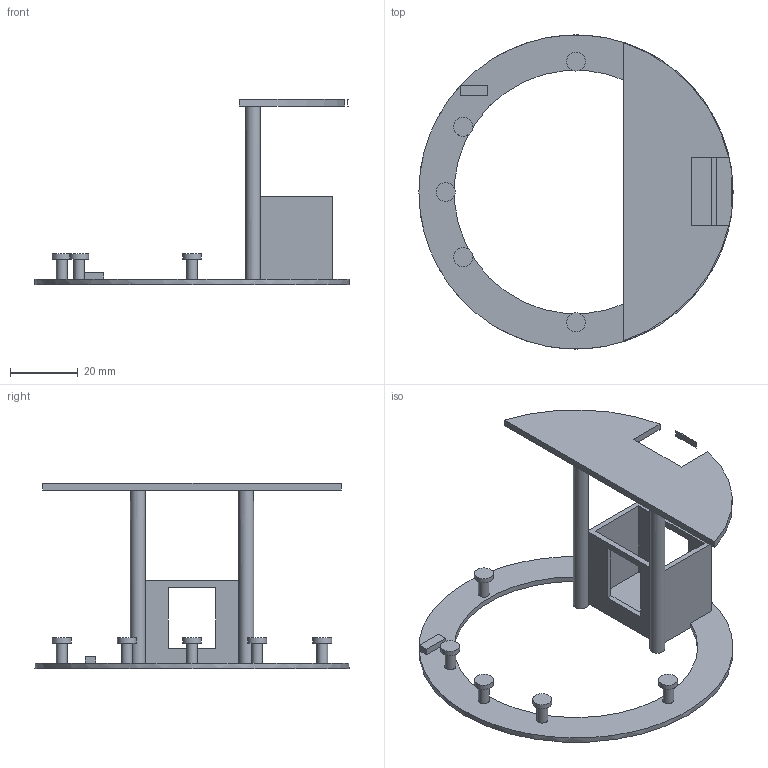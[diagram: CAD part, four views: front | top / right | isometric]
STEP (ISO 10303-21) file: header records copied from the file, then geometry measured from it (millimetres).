
FILE_DESCRIPTION(('Open CASCADE Model'),'2;1');
FILE_NAME('Open CASCADE Shape Model','2026-11-11T19:28:17',('Author'),( 'Open CASCADE'),'Open CASCADE STEP processor 7.9','Open CASCADE 7.9' ,'Unknown');
FILE_SCHEMA(('AUTOMOTIVE_DESIGN { 1 0 10303 214 1 1 1 1 }'));
Length unit declared in the file: millimetre
Products named in the file (3): Open CASCADE STEP translator 7.9 3; Open CASCADE STEP translator 7.9 3.1; Open CASCADE STEP translator 7.9 3.2
Assembly tree (2 placements, depth 2):
  Open CASCADE STEP translator 7.9 3
    Open CASCADE STEP translator 7.9 3.1
    Open CASCADE STEP translator 7.9 3.2
Bounding box: 92.8 x 92.8 x 54.8 mm (x, y, z)
Volume: 14004.7 mm3; surface area: 17340 mm2
Topology: 2 solids, 2 shells, 61 faces, 135 edges, 90 vertices
Faces by surface type: plane 44, cylinder 17
Full cylindrical faces by diameter (mm): 3.2 x5, 4.4 x2, 5.6 x5, 92.8 x1
Entity records: 3517 total; most frequent: CARTESIAN_POINT 589, DIRECTION 566, LINE 329, VECTOR 329, ORIENTED_EDGE 270, PCURVE 270, DEFINITIONAL_REPRESENTATION 270, EDGE_CURVE 135
